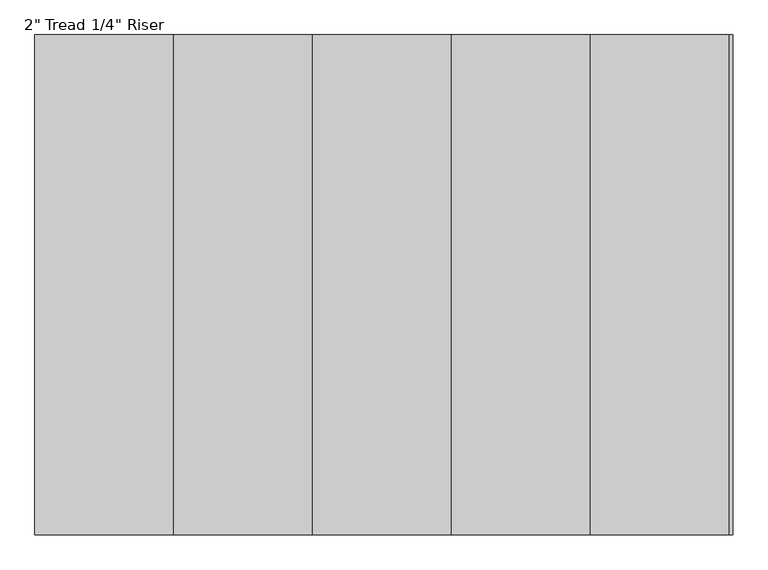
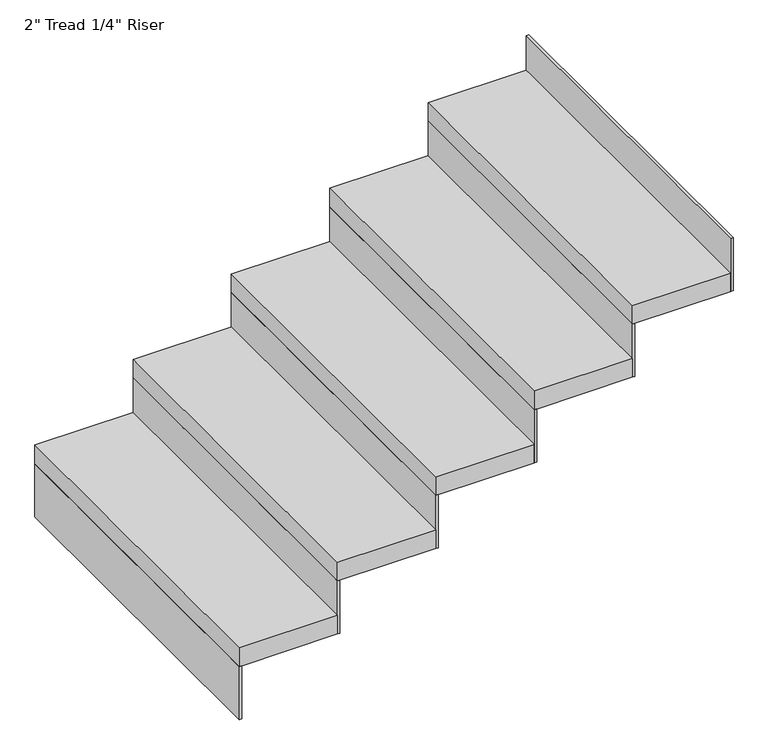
"""IFC4 building model written with IfcOpenShell, lengths in millimetres: stair flight geometry."""

from ifc_helpers import new_model, si_unit, frame, origin, place, context, project, spatial, polyline, outline, extrude, source, transform, mapped, element, save


def stair_flight_68163fd1(model_context):
    return source(origin(), model_context, "Body", "SweptSolid", [
        extrude(outline(polyline([(36492.6766433, -11321.4469585), (36486.3266433, -11321.4469585), (36486.3266433, -10407.0469585), (36492.6766433, -10407.0469585), (36492.6766433, -11321.4469585)])), frame((0.0, 0.0, 2126.3428571), z_axis=(0.0, 0.0, 1.0), x_axis=(1.0, 0.0, 0.0)), (0.0, 0.0, 1.0), 145.1428571),
        extrude(outline(polyline([(36740.3266433, -10407.0469585), (36740.3266433, -11321.4469585), (36486.3266433, -11321.4469585), (36486.3266433, -10407.0469585), (36740.3266433, -10407.0469585)])), frame((0.0, 0.0, 2271.4857143), z_axis=(0.0, 0.0, 1.0), x_axis=(1.0, 0.0, 0.0)), (0.0, 0.0, 1.0), 50.8),
        extrude(outline(polyline([(36746.6766433, -11321.4469585), (36740.3266433, -11321.4469585), (36740.3266433, -10407.0469585), (36746.6766433, -10407.0469585), (36746.6766433, -11321.4469585)])), frame((0.0, 0.0, 2271.4857143), z_axis=(0.0, 0.0, 1.0), x_axis=(1.0, 0.0, 0.0)), (0.0, 0.0, 1.0), 145.1428571),
        extrude(outline(polyline([(36994.3266433, -10407.0469585), (36994.3266433, -11321.4469585), (36740.3266433, -11321.4469585), (36740.3266433, -10407.0469585), (36994.3266433, -10407.0469585)])), frame((0.0, 0.0, 2416.6285714), z_axis=(0.0, 0.0, 1.0), x_axis=(1.0, 0.0, 0.0)), (0.0, 0.0, 1.0), 50.8),
        extrude(outline(polyline([(37000.6766433, -11321.4469585), (36994.3266433, -11321.4469585), (36994.3266433, -10407.0469585), (37000.6766433, -10407.0469585), (37000.6766433, -11321.4469585)])), frame((0.0, 0.0, 2416.6285714), z_axis=(0.0, 0.0, 1.0), x_axis=(1.0, 0.0, 0.0)), (0.0, 0.0, 1.0), 145.1428571),
        extrude(outline(polyline([(37248.3266433, -10407.0469585), (37248.3266433, -11321.4469585), (36994.3266433, -11321.4469585), (36994.3266433, -10407.0469585), (37248.3266433, -10407.0469585)])), frame((0.0, 0.0, 2561.7714286), z_axis=(0.0, 0.0, 1.0), x_axis=(1.0, 0.0, 0.0)), (0.0, 0.0, 1.0), 50.8),
        extrude(outline(polyline([(37254.6766433, -11321.4469585), (37248.3266433, -11321.4469585), (37248.3266433, -10407.0469585), (37254.6766433, -10407.0469585), (37254.6766433, -11321.4469585)])), frame((0.0, 0.0, 2561.7714286), z_axis=(0.0, 0.0, 1.0), x_axis=(1.0, 0.0, 0.0)), (0.0, 0.0, 1.0), 145.1428571),
        extrude(outline(polyline([(37502.3266433, -10407.0469585), (37502.3266433, -11321.4469585), (37248.3266433, -11321.4469585), (37248.3266433, -10407.0469585), (37502.3266433, -10407.0469585)])), frame((0.0, 0.0, 2706.9142857), z_axis=(0.0, 0.0, 1.0), x_axis=(1.0, 0.0, 0.0)), (0.0, 0.0, 1.0), 50.8),
        extrude(outline(polyline([(37508.6766433, -11321.4469585), (37502.3266433, -11321.4469585), (37502.3266433, -10407.0469585), (37508.6766433, -10407.0469585), (37508.6766433, -11321.4469585)])), frame((0.0, 0.0, 2706.9142857), z_axis=(0.0, 0.0, 1.0), x_axis=(1.0, 0.0, 0.0)), (0.0, 0.0, 1.0), 145.1428571),
        extrude(outline(polyline([(37762.6766433, -11321.4469585), (37756.3266433, -11321.4469585), (37756.3266433, -10407.0469585), (37762.6766433, -10407.0469585), (37762.6766433, -11321.4469585)])), frame((0.0, 0.0, 2852.0571429), z_axis=(0.0, 0.0, 1.0), x_axis=(1.0, 0.0, 0.0)), (0.0, 0.0, 1.0), 145.1428571),
        extrude(outline(polyline([(37756.3266433, -10407.0469585), (37756.3266433, -11321.4469585), (37502.3266433, -11321.4469585), (37502.3266433, -10407.0469585), (37756.3266433, -10407.0469585)])), frame((0.0, 0.0, 2852.0571429), z_axis=(0.0, 0.0, 1.0), x_axis=(1.0, 0.0, 0.0)), (0.0, 0.0, 1.0), 50.8),
    ])


if __name__ == "__main__":
    model = new_model("IFC4")
    model_context = context("Model", 3, world=origin())
    ifc_project = project(units=[si_unit("LENGTHUNIT", "METRE", prefix="MILLI")], contexts=[model_context])
    site = spatial("IfcSite", under=ifc_project)
    building = spatial("IfcBuilding", under=site)
    placement = place(None, origin())
    stair_flight_shape = stair_flight_68163fd1(model_context)
    element("IfcStairFlight", 1, ObjectType="2\" Tread 1/4\" Riser", at=placement, inside=building, context=model_context, shape_type="MappedRepresentation", body=[
        mapped(stair_flight_shape, transform((0.0, 0.0, 0.0), x_axis=(1.0, 0.0, 0.0), y_axis=(0.0, 1.0, 0.0), z_axis=(0.0, 0.0, 1.0))),
    ])
    save(model, "model.ifc")
